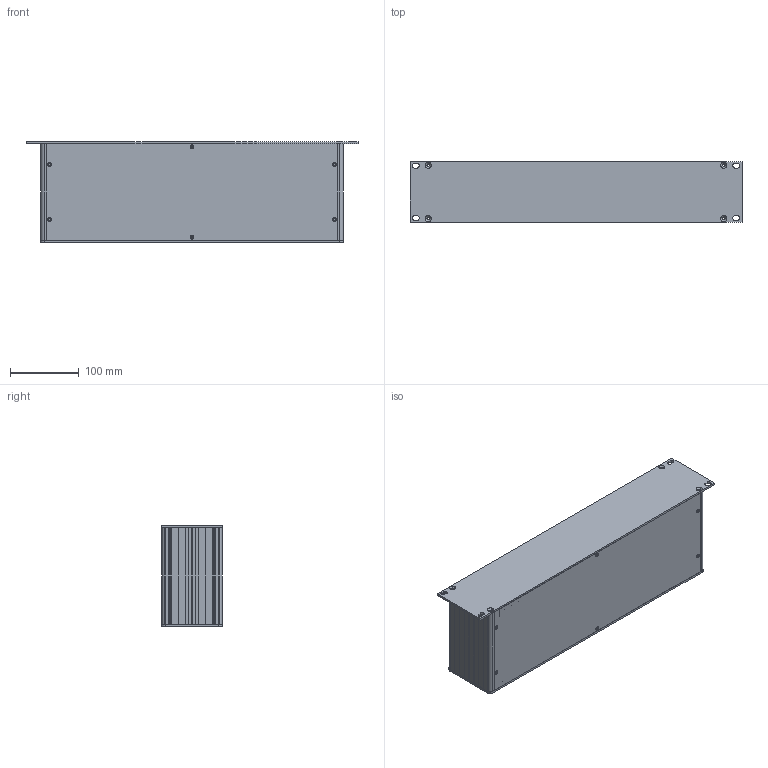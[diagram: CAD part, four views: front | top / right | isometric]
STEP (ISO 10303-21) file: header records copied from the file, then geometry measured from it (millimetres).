
FILE_DESCRIPTION (( 'STEP AP203' ), '1' );
FILE_NAME ('RM-120-14.STEP', '2025-01-27T07:10:30', ( '' ), ( '' ), 'SwSTEP 2.0', 'SolidWorks 2021', '' );
FILE_SCHEMA (( 'CONFIG_CONTROL_DESIGN' ));
Length unit declared in the file: millimetre
Products named in the file (6): AP-220_14 cm; 2U_on_panel; 2U_arka_panel; ust_alt_panel_20 cm; ust_alt_panel_2; RM-120-14
Assembly tree (6 placements, depth 2):
  RM-120-14
    2U_on_panel
    AP-220_14 cm  x2
    2U_arka_panel
    ust_alt_panel_20 cm
    ust_alt_panel_2
Bounding box: 482.6 x 88.1 x 146 mm (x, y, z)
Volume: 520230.2 mm3; surface area: 534184.1 mm2
Topology: 6 solids, 6 shells, 1368 faces, 4044 edges, 2688 vertices
Faces by surface type: plane 728, cylinder 600, cone 40
Entity records: 33726 total; most frequent: DIRECTION 5788, CARTESIAN_POINT 5783, ORIENTED_EDGE 5724, EDGE_CURVE 2862, AXIS2_PLACEMENT_3D 1953, VERTEX_POINT 1900, LINE 1882, VECTOR 1882
